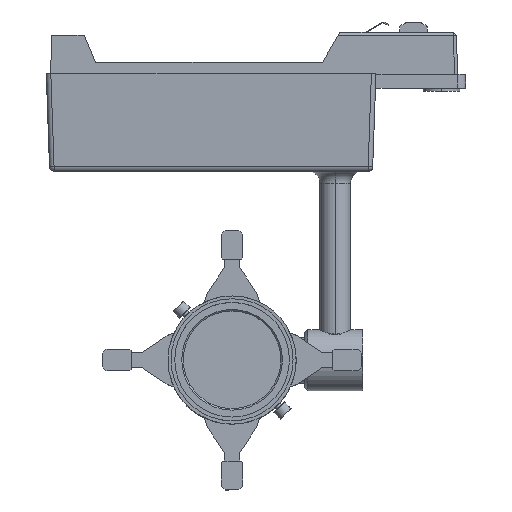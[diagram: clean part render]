
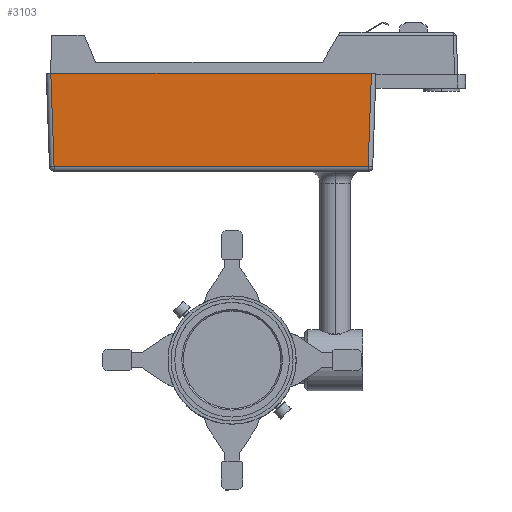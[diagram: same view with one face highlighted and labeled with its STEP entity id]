
A CAD part, top view. The second image highlights one B-rep face of the part: STEP entity #3103.
In plain terms, the highlighted planar face has unit normal (0, -0.035, 0.999).
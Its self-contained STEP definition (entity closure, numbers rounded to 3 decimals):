
#3 = DIRECTION ( 'NONE',  ( 0., -0.035, 0.999 ) ) ;
#588 = VECTOR ( 'NONE', #1587, 1000. ) ;
#661 = VERTEX_POINT ( 'NONE', #7169 ) ;
#1111 = DIRECTION ( 'NONE',  ( 0.035, -0.999, -0.035 ) ) ;
#1420 = ORIENTED_EDGE ( 'NONE', *, *, #7010, .T. ) ;
#1434 = EDGE_CURVE ( 'NONE', #2504, #9754, #9845, .T. ) ;
#1587 = DIRECTION ( 'NONE',  ( 1., 0., 0. ) ) ;
#1698 = EDGE_CURVE ( 'NONE', #661, #9273, #9957, .T. ) ;
#2044 = ORIENTED_EDGE ( 'NONE', *, *, #1434, .T. ) ;
#2504 = VERTEX_POINT ( 'NONE', #7296 ) ;
#2818 = CARTESIAN_POINT ( 'NONE',  ( -155.905, 124.104, 26.154 ) ) ;
#3103 = ADVANCED_FACE ( 'NONE', ( #4909 ), #7108, .T. ) ;
#3607 = EDGE_CURVE ( 'NONE', #2504, #9273, #3656, .T. ) ;
#3656 = LINE ( 'NONE', #6381, #588 ) ;
#3922 = CARTESIAN_POINT ( 'NONE',  ( -158.9, 124., 26.15 ) ) ;
#3981 = DIRECTION ( 'NONE',  ( 1., 0., 0. ) ) ;
#4497 = EDGE_LOOP ( 'NONE', ( #9338, #2044, #1420, #8511 ) ) ;
#4909 = FACE_OUTER_BOUND ( 'NONE', #4497, .T. ) ;
#5522 = DIRECTION ( 'NONE',  ( 0., -0.999, -0.035 ) ) ;
#5586 = CARTESIAN_POINT ( 'NONE',  ( -158.9, 126.895, 26.251 ) ) ;
#6307 = CARTESIAN_POINT ( 'NONE',  ( 49.548, 116.73, 25.896 ) ) ;
#6381 = CARTESIAN_POINT ( 'NONE',  ( -158.9, 188., 28.385 ) ) ;
#6699 = VECTOR ( 'NONE', #1111, 1000. ) ;
#7010 = EDGE_CURVE ( 'NONE', #9754, #661, #7093, .T. ) ;
#7093 = LINE ( 'NONE', #5586, #8677 ) ;
#7108 = PLANE ( 'NONE',  #8400 ) ;
#7169 = CARTESIAN_POINT ( 'NONE',  ( 49.903, 126.895, 26.251 ) ) ;
#7296 = CARTESIAN_POINT ( 'NONE',  ( -158.137, 188., 28.385 ) ) ;
#7577 = CARTESIAN_POINT ( 'NONE',  ( -156.003, 126.895, 26.251 ) ) ;
#7907 = VECTOR ( 'NONE', #9405, 1000. ) ;
#8400 = AXIS2_PLACEMENT_3D ( 'NONE', #3922, #3, #5522 ) ;
#8511 = ORIENTED_EDGE ( 'NONE', *, *, #1698, .T. ) ;
#8677 = VECTOR ( 'NONE', #3981, 1000. ) ;
#9245 = CARTESIAN_POINT ( 'NONE',  ( 52.037, 188., 28.385 ) ) ;
#9273 = VERTEX_POINT ( 'NONE', #9245 ) ;
#9338 = ORIENTED_EDGE ( 'NONE', *, *, #3607, .F. ) ;
#9405 = DIRECTION ( 'NONE',  ( 0.035, 0.999, 0.035 ) ) ;
#9754 = VERTEX_POINT ( 'NONE', #7577 ) ;
#9845 = LINE ( 'NONE', #2818, #6699 ) ;
#9957 = LINE ( 'NONE', #6307, #7907 ) ;
